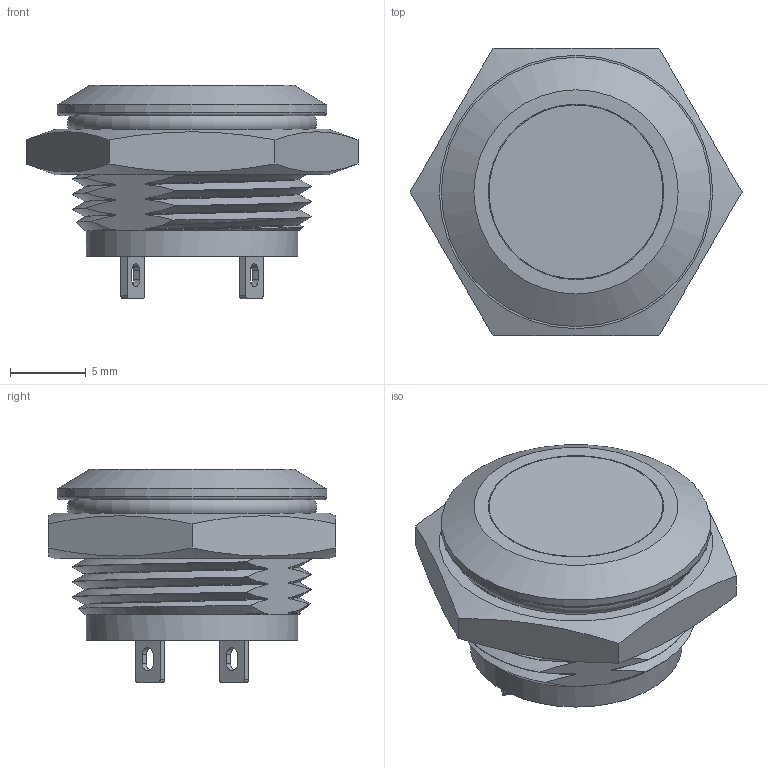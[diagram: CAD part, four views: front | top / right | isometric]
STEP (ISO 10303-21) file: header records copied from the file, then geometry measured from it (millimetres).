
FILE_DESCRIPTION(/* description */ (''),/* implementation_level */ '2;1');
FILE_NAME(/* name */ '1.stp',/* time_stamp */ '2020-09-23T15:38:03+08:00',/* author */ (''),/* organization */ (''),/* preprocessor_version */ 'ST-DEVELOPER v11',/* originating_system */ 'SIEMENS UGS NX 6.0',/* authorisation */ '');
FILE_SCHEMA (('CONFIG_CONTROL_DESIGN'));
Length unit declared in the file: millimetre
Products named in the file (1): 1
Bounding box: 21.94 x 19 x 14.1 mm (x, y, z)
Volume: 1658.4 mm3; surface area: 3620.8 mm2
Topology: 8 solids, 8 shells, 241 faces, 619 edges, 405 vertices
Faces by surface type: plane 153, cylinder 49, bspline 18, cone 9, extrusion 8, torus 4
Full cylindrical faces by diameter (mm): 9 x1, 11.5 x2, 11.6 x1, 12.4 x1, 13.2 x1, 13.4 x1, 14 x1, 17.8 x1
Entity records: 10900 total; most frequent: CARTESIAN_POINT 5325, ORIENTED_EDGE 1184, DIRECTION 972, EDGE_CURVE 592, VERTEX_POINT 397, VECTOR 368, LINE 360, AXIS2_PLACEMENT_3D 302
